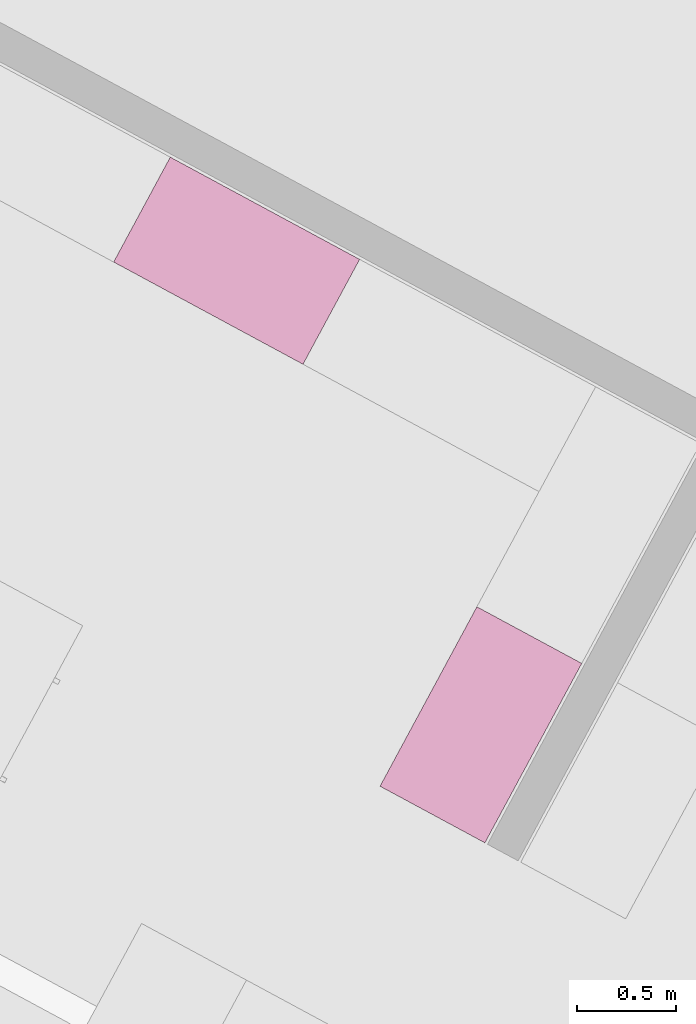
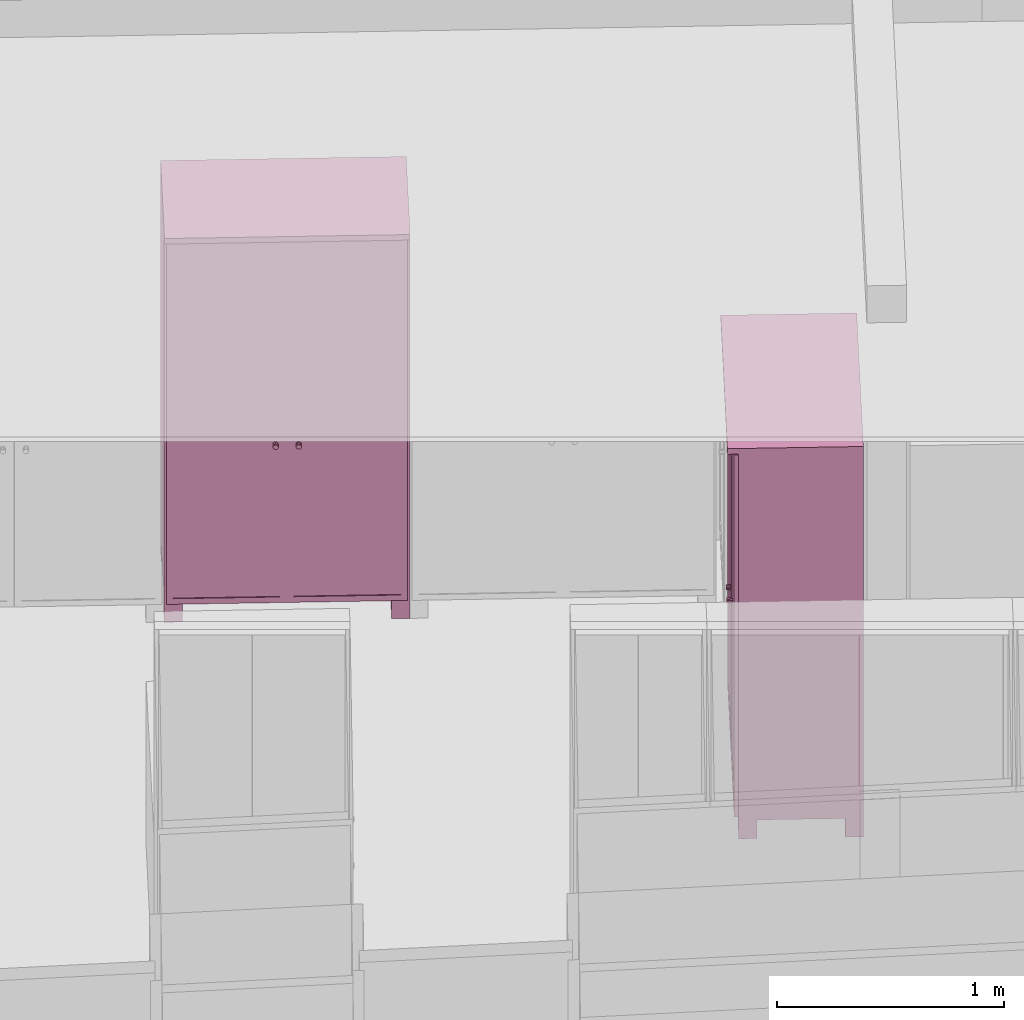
# One storey, part 31 of 48: 2 furnishings.
"""IFC2X3 building model written with IfcOpenShell, lengths in metres."""

from ifc_helpers import new_model, entity, si_unit, converted_unit, derived_unit, money_unit, direction, frame, origin_with_axes, place, context, subcontext, project, spatial, faceted_brep, type_object, element, save


model = new_model("IFC2X3")

# Units and contexts
model_context = context("Model", 3, precision=1e-05, world=origin_with_axes(), true_north=direction((0.0, 1.0)))
body_context = subcontext(model_context, "Body", "Model", "MODEL_VIEW")
ifc_project = project(units=[si_unit("LENGTHUNIT", "METRE"), si_unit("AREAUNIT", "SQUARE_METRE"), si_unit("VOLUMEUNIT", "CUBIC_METRE"), converted_unit("PLANEANGLEUNIT", "DEGREE", entity("IfcPlaneAngleMeasure", 0.0174532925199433), si_unit("PLANEANGLEUNIT", "RADIAN"), dimensions=[0, 0, 0, 0, 0, 0, 0]), money_unit("EUR"), converted_unit("TIMEUNIT", "Year", entity("IfcTimeMeasure", 31556926.0), si_unit("TIMEUNIT", "SECOND"), dimensions=[0, 0, 1, 0, 0, 0, 0]), si_unit("MASSUNIT", "GRAM", prefix="KILO"), si_unit("THERMODYNAMICTEMPERATUREUNIT", "DEGREE_CELSIUS"), si_unit("LUMINOUSINTENSITYUNIT", "LUMEN"), si_unit("ENERGYUNIT", "JOULE", prefix="MEGA"), derived_unit("THERMALCONDUCTANCEUNIT", [(si_unit("POWERUNIT", "WATT"), 1), (si_unit("LENGTHUNIT", "METRE"), -1), (si_unit("THERMODYNAMICTEMPERATUREUNIT", "KELVIN"), -1)]), derived_unit("SPECIFICHEATCAPACITYUNIT", [(si_unit("ENERGYUNIT", "JOULE"), 1), (si_unit("MASSUNIT", "GRAM", prefix="KILO"), -1), (si_unit("THERMODYNAMICTEMPERATUREUNIT", "KELVIN"), -1)]), derived_unit("MASSDENSITYUNIT", [(si_unit("MASSUNIT", "GRAM", prefix="KILO"), 1), (si_unit("VOLUMEUNIT", "CUBIC_METRE"), -1)])], contexts=[model_context])

# Site, building, storey
site_placement = place(None, frame((-3.949935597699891, 1.740105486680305, 0.0), z_axis=(0.0, 0.0, 1.0), x_axis=(0.8799804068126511, -0.475009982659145, 0.0)))
site = spatial("IfcSite", under=ifc_project, at=site_placement, Name="Gelände", CompositionType="ELEMENT")
building_placement = place(site_placement, origin_with_axes())
building = spatial("IfcBuilding", under=site, at=building_placement, Name="Gebäude", CompositionType="ELEMENT")
storey_placement = place(building_placement, frame((0.0, 0.0, 4.55), z_axis=(0.0, 0.0, 1.0), x_axis=(1.0, 0.0, 0.0)))
storey = spatial("IfcBuildingStorey", under=building, at=storey_placement, Name="Staffelgeschoss", CompositionType="ELEMENT", Elevation=4.55)

# Furnishings
furnishing_element_type = type_object("IfcFurnishingElementType", Name="Kleiderschrank 22")
furnishing_1_placement = place(storey_placement, frame((15.97849488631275, 4.444526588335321, 0.0), z_axis=(0.0, 0.0, 1.0), x_axis=(0.0, -1.0, 0.0)))
element("IfcFurnishingElement", 1, at=furnishing_1_placement, inside=storey, type_object=furnishing_element_type, Name="Objekt-0066", context=body_context, shape_type="Brep", body=[
    faceted_brep([(0.02000000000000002, 0.6000000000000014, 0.12), (0.02000000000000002, 0.5800000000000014, 0.12), (0.02000000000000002, 0.5800000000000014, 2.05), (0.02000000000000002, 0.6000000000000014, 2.05), (1.006465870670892, 0.6000000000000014, 0.12), (1.006465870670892, 0.5800000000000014, 0.12), (1.006465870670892, 0.5800000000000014, 2.05), (1.006465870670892, 0.6000000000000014, 2.05)], [[[0, 1, 2, 3]], [[0, 4, 5, 1]], [[1, 5, 6, 2]], [[3, 2, 6, 7]], [[4, 0, 3, 7]], [[5, 4, 7, 6]]]),
    faceted_brep([(1.026465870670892, 0.05000000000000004, 0.1), (1.006465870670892, 0.05000000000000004, 0.1), (1.006465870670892, 0.6000000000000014, 0.1), (1.026465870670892, 0.6000000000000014, 0.1), (1.026465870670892, 0.05000000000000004, 2.07), (1.006465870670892, 0.05000000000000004, 2.07), (1.006465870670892, 0.6000000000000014, 2.07), (1.026465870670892, 0.6000000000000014, 2.07)], [[[0, 1, 2, 3]], [[1, 0, 4, 5]], [[2, 1, 5, 6]], [[3, 2, 6, 7]], [[0, 3, 7, 4]], [[5, 4, 7, 6]]]),
    faceted_brep([(0.02, 0.05000000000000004, 0.1), (0.0, 0.05000000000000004, 0.1), (0.0, 0.6000000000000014, 0.1), (0.02, 0.6000000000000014, 0.1), (0.02, 0.05000000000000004, 2.07), (0.0, 0.05000000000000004, 2.07), (0.0, 0.6000000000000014, 2.07), (0.02, 0.6000000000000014, 2.07)], [[[0, 1, 2, 3]], [[1, 0, 4, 5]], [[2, 1, 5, 6]], [[3, 2, 6, 7]], [[0, 3, 7, 4]], [[5, 4, 7, 6]]]),
    faceted_brep([(1.006465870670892, 0.05000000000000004, 0.1), (0.02000000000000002, 0.05000000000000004, 0.1), (0.02000000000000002, 0.6000000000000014, 0.1), (1.006465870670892, 0.6000000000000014, 0.1), (1.006465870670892, 0.05000000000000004, 0.12), (0.02000000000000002, 0.05000000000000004, 0.12), (0.02000000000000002, 0.6000000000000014, 0.12), (1.006465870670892, 0.6000000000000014, 0.12)], [[[0, 1, 2, 3]], [[1, 0, 4, 5]], [[2, 1, 5, 6]], [[3, 2, 6, 7]], [[0, 3, 7, 4]], [[5, 4, 7, 6]]]),
    faceted_brep([(1.006465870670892, 0.05000000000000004, 2.05), (0.02000000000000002, 0.05000000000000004, 2.05), (0.02000000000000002, 0.6000000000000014, 2.05), (1.006465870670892, 0.6000000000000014, 2.05), (1.006465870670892, 0.05000000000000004, 2.07), (0.02000000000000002, 0.05000000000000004, 2.07), (0.02000000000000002, 0.6000000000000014, 2.07), (1.006465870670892, 0.6000000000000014, 2.07)], [[[0, 1, 2, 3]], [[1, 0, 4, 5]], [[2, 1, 5, 6]], [[3, 2, 6, 7]], [[0, 3, 7, 4]], [[5, 4, 7, 6]]]),
    faceted_brep([(1.026465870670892, 0.6000000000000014, 2.07), (1.026465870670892, 0.6000000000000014, 2.1), (1.026465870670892, 0.0, 2.1), (1.026465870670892, 0.0, 2.07), (0.0, 0.6000000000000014, 2.07), (0.0, 0.6000000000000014, 2.1), (0.0, 0.0, 2.1), (0.0, 0.0, 2.07)], [[[0, 1, 2, 3]], [[4, 5, 1, 0]], [[1, 5, 6, 2]], [[3, 2, 6, 7]], [[0, 3, 7, 4]], [[7, 6, 5, 4]]]),
    faceted_brep([(0.07999999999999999, 0.5200000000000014, 0.0), (0.07999999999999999, 0.6000000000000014, 0.0), (0.07999999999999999, 0.6000000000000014, 0.1), (0.07999999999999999, 0.5200000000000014, 0.1), (0.0, 0.5200000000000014, 0.0), (0.0, 0.6000000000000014, 0.0), (0.0, 0.6000000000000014, 0.1), (0.0, 0.5200000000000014, 0.1)], [[[0, 1, 2, 3]], [[0, 4, 5, 1]], [[1, 5, 6, 2]], [[3, 2, 6, 7]], [[4, 0, 3, 7]], [[5, 4, 7, 6]]]),
    faceted_brep([(1.026465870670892, 0.5200000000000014, 0.0), (1.026465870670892, 0.6000000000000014, 0.0), (1.026465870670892, 0.6000000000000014, 0.1), (1.026465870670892, 0.5200000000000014, 0.1), (0.9464658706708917, 0.5200000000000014, 0.0), (0.9464658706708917, 0.6000000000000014, 0.0), (0.9464658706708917, 0.6000000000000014, 0.1), (0.9464658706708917, 0.5200000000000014, 0.1)], [[[0, 1, 2, 3]], [[0, 4, 5, 1]], [[1, 5, 6, 2]], [[3, 2, 6, 7]], [[4, 0, 3, 7]], [[5, 4, 7, 6]]]),
    faceted_brep([(0.07999999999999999, 0.05000000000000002, 0.0), (0.07999999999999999, 0.13, 0.0), (0.07999999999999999, 0.13, 0.1), (0.07999999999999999, 0.05000000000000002, 0.1), (0.0, 0.05000000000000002, 0.0), (0.0, 0.13, 0.0), (0.0, 0.13, 0.1), (0.0, 0.05000000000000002, 0.1)], [[[0, 1, 2, 3]], [[0, 4, 5, 1]], [[1, 5, 6, 2]], [[3, 2, 6, 7]], [[4, 0, 3, 7]], [[5, 4, 7, 6]]]),
    faceted_brep([(1.026465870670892, 0.05000000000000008, 0.0), (1.026465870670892, 0.1300000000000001, 0.0), (1.026465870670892, 0.1300000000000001, 0.1), (1.026465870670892, 0.05000000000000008, 0.1), (0.9464658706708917, 0.05000000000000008, 0.0), (0.9464658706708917, 0.1300000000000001, 0.0), (0.9464658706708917, 0.1300000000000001, 0.1), (0.9464658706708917, 0.05000000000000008, 0.1)], [[[0, 1, 2, 3]], [[0, 4, 5, 1]], [[1, 5, 6, 2]], [[3, 2, 6, 7]], [[4, 0, 3, 7]], [[5, 4, 7, 6]]]),
    faceted_brep([(0.512732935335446, 0.05, 0.1104999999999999), (0.512732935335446, 0.05000000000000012, 2.0595), (0.512732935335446, 0.03000000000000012, 2.0595), (0.512732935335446, 0.03, 0.1104999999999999), (0.4827329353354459, 0.05, 0.1405), (0.4827329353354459, 0.05000000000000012, 2.0295), (0.4827329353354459, 0.03000000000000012, 2.0295), (0.4827329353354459, 0.03000000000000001, 0.1405)], [[[0, 1, 2, 3]], [[0, 4, 5, 1]], [[1, 5, 6, 2]], [[3, 2, 6, 7]], [[4, 0, 3, 7]], [[5, 4, 7, 6]]]),
    faceted_brep([(0.04050000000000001, 0.05, 0.1405), (0.04050000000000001, 0.05000000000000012, 2.0295), (0.04050000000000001, 0.03000000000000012, 2.0295), (0.04050000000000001, 0.03000000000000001, 0.1405), (0.01050000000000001, 0.05, 0.1104999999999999), (0.01050000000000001, 0.05000000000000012, 2.0595), (0.01050000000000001, 0.03000000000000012, 2.0595), (0.01050000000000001, 0.03, 0.1104999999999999)], [[[0, 1, 2, 3]], [[0, 4, 5, 1]], [[1, 5, 6, 2]], [[3, 2, 6, 7]], [[4, 0, 3, 7]], [[5, 4, 7, 6]]]),
    faceted_brep([(0.01050000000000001, 0.05, 0.1104999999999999), (0.512732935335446, 0.05, 0.1104999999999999), (0.512732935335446, 0.03, 0.1104999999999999), (0.01050000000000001, 0.03, 0.1104999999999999), (0.04050000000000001, 0.05, 0.1405), (0.4827329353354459, 0.05, 0.1405), (0.4827329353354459, 0.03000000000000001, 0.1405), (0.04050000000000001, 0.03000000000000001, 0.1405)], [[[0, 1, 2, 3]], [[0, 4, 5, 1]], [[1, 5, 6, 2]], [[3, 2, 6, 7]], [[4, 0, 3, 7]], [[5, 4, 7, 6]]]),
    faceted_brep([(0.04050000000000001, 0.05000000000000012, 2.0295), (0.4827329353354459, 0.05000000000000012, 2.0295), (0.4827329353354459, 0.03000000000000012, 2.0295), (0.04050000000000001, 0.03000000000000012, 2.0295), (0.01050000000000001, 0.05000000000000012, 2.0595), (0.512732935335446, 0.05000000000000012, 2.0595), (0.512732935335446, 0.03000000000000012, 2.0595), (0.01050000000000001, 0.03000000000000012, 2.0595)], [[[0, 1, 2, 3]], [[0, 4, 5, 1]], [[1, 5, 6, 2]], [[3, 2, 6, 7]], [[4, 0, 3, 7]], [[5, 4, 7, 6]]]),
    faceted_brep([(0.4827329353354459, 0.04500000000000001, 0.1405), (0.4827329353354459, 0.04500000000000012, 2.0295), (0.4827329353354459, 0.03500000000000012, 2.0295), (0.4827329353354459, 0.035, 0.1405), (0.04050000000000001, 0.04500000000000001, 0.1405), (0.04050000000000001, 0.04500000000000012, 2.0295), (0.04050000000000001, 0.03500000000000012, 2.0295), (0.04050000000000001, 0.035, 0.1405)], [[[0, 1, 2, 3]], [[0, 4, 5, 1]], [[1, 5, 6, 2]], [[3, 2, 6, 7]], [[4, 0, 3, 7]], [[5, 4, 7, 6]]]),
    faceted_brep([(0.4726252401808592, 0.035, 0.954), (0.4682329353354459, 0.035, 0.9496076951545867), (0.4622329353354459, 0.035, 0.948), (0.4562329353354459, 0.035, 0.9496076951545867), (0.4518406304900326, 0.035, 0.954), (0.4502329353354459, 0.035, 0.96), (0.4518406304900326, 0.035, 0.966), (0.4562329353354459, 0.035, 0.9703923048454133), (0.4622329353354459, 0.035, 0.972), (0.4682329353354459, 0.035, 0.9703923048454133), (0.4726252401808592, 0.035, 0.966), (0.4742329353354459, 0.035, 0.96), (0.4726252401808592, 0.01, 0.954), (0.4682329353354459, 0.01, 0.9496076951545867), (0.4622329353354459, 0.01, 0.948), (0.4562329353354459, 0.01, 0.9496076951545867), (0.4518406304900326, 0.01, 0.954), (0.4502329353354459, 0.01, 0.96), (0.4518406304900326, 0.01, 0.966), (0.4562329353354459, 0.01, 0.9703923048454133), (0.4622329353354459, 0.01, 0.972), (0.4682329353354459, 0.01, 0.9703923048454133), (0.4726252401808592, 0.01, 0.966), (0.4742329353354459, 0.01, 0.96)], [[[0, 1, 2, 3, 4, 5, 6, 7, 8, 9, 10, 11]], [[1, 0, 12, 13]], [[2, 1, 13, 14]], [[3, 2, 14, 15]], [[4, 3, 15, 16]], [[5, 4, 16, 17]], [[6, 5, 17, 18]], [[7, 6, 18, 19]], [[8, 7, 19, 20]], [[9, 8, 20, 21]], [[10, 9, 21, 22]], [[11, 10, 22, 23]], [[0, 11, 23, 12]], [[12, 23, 22, 21, 20, 19, 18, 17, 16, 15, 14, 13]]]),
    faceted_brep([(1.016965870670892, 0.05, 0.1104999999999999), (1.016965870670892, 0.05000000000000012, 2.0595), (1.016965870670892, 0.03000000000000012, 2.0595), (1.016965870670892, 0.03, 0.1104999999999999), (0.9869658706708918, 0.05, 0.1405), (0.9869658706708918, 0.05000000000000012, 2.0295), (0.9869658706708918, 0.03000000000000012, 2.0295), (0.9869658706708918, 0.03000000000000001, 0.1405)], [[[0, 1, 2, 3]], [[0, 4, 5, 1]], [[1, 5, 6, 2]], [[3, 2, 6, 7]], [[4, 0, 3, 7]], [[5, 4, 7, 6]]]),
    faceted_brep([(0.5447329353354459, 0.05, 0.1405), (0.5447329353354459, 0.05000000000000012, 2.0295), (0.5447329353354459, 0.03000000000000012, 2.0295), (0.5447329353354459, 0.03000000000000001, 0.1405), (0.514732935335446, 0.05, 0.1104999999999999), (0.514732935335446, 0.05000000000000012, 2.0595), (0.514732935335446, 0.03000000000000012, 2.0595), (0.514732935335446, 0.03, 0.1104999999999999)], [[[0, 1, 2, 3]], [[0, 4, 5, 1]], [[1, 5, 6, 2]], [[3, 2, 6, 7]], [[4, 0, 3, 7]], [[5, 4, 7, 6]]]),
    faceted_brep([(0.514732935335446, 0.05, 0.1104999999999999), (1.016965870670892, 0.05, 0.1104999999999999), (1.016965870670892, 0.03, 0.1104999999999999), (0.514732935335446, 0.03, 0.1104999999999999), (0.5447329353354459, 0.05, 0.1405), (0.9869658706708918, 0.05, 0.1405), (0.9869658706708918, 0.03000000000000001, 0.1405), (0.5447329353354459, 0.03000000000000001, 0.1405)], [[[0, 1, 2, 3]], [[0, 4, 5, 1]], [[1, 5, 6, 2]], [[3, 2, 6, 7]], [[4, 0, 3, 7]], [[5, 4, 7, 6]]]),
    faceted_brep([(0.5447329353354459, 0.05000000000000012, 2.0295), (0.9869658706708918, 0.05000000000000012, 2.0295), (0.9869658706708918, 0.03000000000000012, 2.0295), (0.5447329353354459, 0.03000000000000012, 2.0295), (0.514732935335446, 0.05000000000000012, 2.0595), (1.016965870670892, 0.05000000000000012, 2.0595), (1.016965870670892, 0.03000000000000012, 2.0595), (0.514732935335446, 0.03000000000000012, 2.0595)], [[[0, 1, 2, 3]], [[0, 4, 5, 1]], [[1, 5, 6, 2]], [[3, 2, 6, 7]], [[4, 0, 3, 7]], [[5, 4, 7, 6]]]),
    faceted_brep([(0.9869658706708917, 0.04500000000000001, 0.1405), (0.9869658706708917, 0.04500000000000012, 2.0295), (0.9869658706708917, 0.04000000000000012, 2.0295), (0.9869658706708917, 0.04000000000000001, 0.1405), (0.5447329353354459, 0.04500000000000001, 0.1405), (0.5447329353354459, 0.04500000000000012, 2.0295), (0.5447329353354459, 0.04000000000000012, 2.0295), (0.5447329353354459, 0.04000000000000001, 0.1405)], [[[0, 1, 2, 3]], [[0, 4, 5, 1]], [[1, 5, 6, 2]], [[3, 2, 6, 7]], [[4, 0, 3, 7]], [[5, 4, 7, 6]]]),
    faceted_brep([(0.9869658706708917, 0.04000000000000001, 0.1405), (0.9869658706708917, 0.04000000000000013, 2.0295), (0.9869658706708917, 0.03500000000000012, 2.0295), (0.9869658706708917, 0.03500000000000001, 0.1405), (0.5447329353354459, 0.04000000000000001, 0.1405), (0.5447329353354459, 0.04000000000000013, 2.0295), (0.5447329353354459, 0.03500000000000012, 2.0295), (0.5447329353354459, 0.03500000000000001, 0.1405)], [[[0, 1, 2, 3]], [[0, 4, 5, 1]], [[1, 5, 6, 2]], [[3, 2, 6, 7]], [[4, 0, 3, 7]], [[5, 4, 7, 6]]]),
    faceted_brep([(0.5538406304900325, 0.035, 0.954), (0.5522329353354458, 0.035, 0.96), (0.5538406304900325, 0.035, 0.966), (0.5582329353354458, 0.035, 0.9703923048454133), (0.5642329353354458, 0.035, 0.972), (0.5702329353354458, 0.035, 0.9703923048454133), (0.5746252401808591, 0.035, 0.966), (0.5762329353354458, 0.035, 0.96), (0.5746252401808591, 0.035, 0.954), (0.5702329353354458, 0.035, 0.9496076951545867), (0.5642329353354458, 0.035, 0.948), (0.5582329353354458, 0.035, 0.9496076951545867), (0.5538406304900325, 0.01, 0.954), (0.5522329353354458, 0.01, 0.96), (0.5538406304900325, 0.01, 0.966), (0.5582329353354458, 0.01, 0.9703923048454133), (0.5642329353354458, 0.01, 0.972), (0.5702329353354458, 0.01, 0.9703923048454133), (0.5746252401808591, 0.01, 0.966), (0.5762329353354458, 0.01, 0.96), (0.5746252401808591, 0.01, 0.954), (0.5702329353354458, 0.01, 0.9496076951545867), (0.5642329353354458, 0.01, 0.948), (0.5582329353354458, 0.01, 0.9496076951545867)], [[[0, 1, 2, 3, 4, 5, 6, 7, 8, 9, 10, 11]], [[0, 12, 13, 1]], [[1, 13, 14, 2]], [[2, 14, 15, 3]], [[3, 15, 16, 4]], [[4, 16, 17, 5]], [[5, 17, 18, 6]], [[6, 18, 19, 7]], [[7, 19, 20, 8]], [[8, 20, 21, 9]], [[9, 21, 22, 10]], [[10, 22, 23, 11]], [[11, 23, 12, 0]], [[12, 23, 22, 21, 20, 19, 18, 17, 16, 15, 14, 13]]]),
])
furnishing_2_placement = place(storey_placement, frame((14.62849488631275, 5.103060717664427, 0.0), z_axis=(0.0, 0.0, 1.0), x_axis=(1.0, 0.0, 0.0)))
element("IfcFurnishingElement", 2, at=furnishing_2_placement, inside=storey, type_object=furnishing_element_type, Name="Objekt-0066", context=body_context, shape_type="Brep", body=[
    faceted_brep([(-0.02000000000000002, 0.6000000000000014, 0.12), (-0.02000000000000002, 0.6000000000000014, 2.05), (-0.02000000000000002, 0.5800000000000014, 2.05), (-0.02000000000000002, 0.5800000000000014, 0.12), (-1.06329932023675, 0.6000000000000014, 0.12), (-1.06329932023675, 0.6000000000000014, 2.05), (-1.06329932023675, 0.5800000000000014, 2.05), (-1.06329932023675, 0.5800000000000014, 0.12)], [[[0, 1, 2, 3]], [[4, 5, 1, 0]], [[1, 5, 6, 2]], [[3, 2, 6, 7]], [[0, 3, 7, 4]], [[7, 6, 5, 4]]]),
    faceted_brep([(-1.08329932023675, 0.05000000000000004, 0.1), (-1.08329932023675, 0.6000000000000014, 0.1), (-1.06329932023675, 0.6000000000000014, 0.1), (-1.06329932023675, 0.05000000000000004, 0.1), (-1.08329932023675, 0.05000000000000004, 2.07), (-1.08329932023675, 0.6000000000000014, 2.07), (-1.06329932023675, 0.6000000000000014, 2.07), (-1.06329932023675, 0.05000000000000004, 2.07)], [[[0, 1, 2, 3]], [[0, 4, 5, 1]], [[1, 5, 6, 2]], [[2, 6, 7, 3]], [[3, 7, 4, 0]], [[7, 6, 5, 4]]]),
    faceted_brep([(-0.02, 0.05000000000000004, 0.1), (-0.02, 0.6000000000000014, 0.1), (0.0, 0.6000000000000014, 0.1), (0.0, 0.05000000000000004, 0.1), (-0.02, 0.05000000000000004, 2.07), (-0.02, 0.6000000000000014, 2.07), (0.0, 0.6000000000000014, 2.07), (0.0, 0.05000000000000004, 2.07)], [[[0, 1, 2, 3]], [[0, 4, 5, 1]], [[1, 5, 6, 2]], [[2, 6, 7, 3]], [[3, 7, 4, 0]], [[7, 6, 5, 4]]]),
    faceted_brep([(-1.06329932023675, 0.05000000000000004, 0.1), (-1.06329932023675, 0.6000000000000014, 0.1), (-0.02000000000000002, 0.6000000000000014, 0.1), (-0.02000000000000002, 0.05000000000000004, 0.1), (-1.06329932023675, 0.05000000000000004, 0.12), (-1.06329932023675, 0.6000000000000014, 0.12), (-0.02000000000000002, 0.6000000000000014, 0.12), (-0.02000000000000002, 0.05000000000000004, 0.12)], [[[0, 1, 2, 3]], [[0, 4, 5, 1]], [[1, 5, 6, 2]], [[2, 6, 7, 3]], [[3, 7, 4, 0]], [[7, 6, 5, 4]]]),
    faceted_brep([(-1.06329932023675, 0.05000000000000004, 2.05), (-1.06329932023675, 0.6000000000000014, 2.05), (-0.02000000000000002, 0.6000000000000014, 2.05), (-0.02000000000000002, 0.05000000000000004, 2.05), (-1.06329932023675, 0.05000000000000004, 2.07), (-1.06329932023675, 0.6000000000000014, 2.07), (-0.02000000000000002, 0.6000000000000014, 2.07), (-0.02000000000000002, 0.05000000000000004, 2.07)], [[[0, 1, 2, 3]], [[0, 4, 5, 1]], [[1, 5, 6, 2]], [[2, 6, 7, 3]], [[3, 7, 4, 0]], [[7, 6, 5, 4]]]),
    faceted_brep([(-1.08329932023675, 0.6000000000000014, 2.07), (-1.08329932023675, 0.0, 2.07), (-1.08329932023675, 0.0, 2.1), (-1.08329932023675, 0.6000000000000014, 2.1), (0.0, 0.6000000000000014, 2.07), (0.0, 0.0, 2.07), (0.0, 0.0, 2.1), (0.0, 0.6000000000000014, 2.1)], [[[0, 1, 2, 3]], [[0, 4, 5, 1]], [[1, 5, 6, 2]], [[3, 2, 6, 7]], [[4, 0, 3, 7]], [[5, 4, 7, 6]]]),
    faceted_brep([(-0.08000000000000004, 0.5200000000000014, 0.0), (-0.08000000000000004, 0.5200000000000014, 0.1), (-0.08000000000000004, 0.6000000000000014, 0.1), (-0.08000000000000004, 0.6000000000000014, 0.0), (0.0, 0.5200000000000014, 0.0), (0.0, 0.5200000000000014, 0.1), (0.0, 0.6000000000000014, 0.1), (0.0, 0.6000000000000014, 0.0)], [[[0, 1, 2, 3]], [[4, 5, 1, 0]], [[1, 5, 6, 2]], [[3, 2, 6, 7]], [[0, 3, 7, 4]], [[7, 6, 5, 4]]]),
    faceted_brep([(-1.08329932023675, 0.5200000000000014, 0.0), (-1.08329932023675, 0.5200000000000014, 0.1), (-1.08329932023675, 0.6000000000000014, 0.1), (-1.08329932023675, 0.6000000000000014, 0.0), (-1.00329932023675, 0.5200000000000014, 0.0), (-1.00329932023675, 0.5200000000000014, 0.1), (-1.00329932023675, 0.6000000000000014, 0.1), (-1.00329932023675, 0.6000000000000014, 0.0)], [[[0, 1, 2, 3]], [[4, 5, 1, 0]], [[1, 5, 6, 2]], [[3, 2, 6, 7]], [[0, 3, 7, 4]], [[7, 6, 5, 4]]]),
    faceted_brep([(-0.08000000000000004, 0.05000000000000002, 0.0), (-0.08000000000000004, 0.05000000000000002, 0.1), (-0.08000000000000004, 0.13, 0.1), (-0.08000000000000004, 0.13, 0.0), (0.0, 0.05000000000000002, 0.0), (0.0, 0.05000000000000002, 0.1), (0.0, 0.13, 0.1), (0.0, 0.13, 0.0)], [[[0, 1, 2, 3]], [[4, 5, 1, 0]], [[1, 5, 6, 2]], [[3, 2, 6, 7]], [[0, 3, 7, 4]], [[7, 6, 5, 4]]]),
    faceted_brep([(-1.08329932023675, 0.05000000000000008, 0.0), (-1.08329932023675, 0.05000000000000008, 0.1), (-1.08329932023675, 0.1300000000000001, 0.1), (-1.08329932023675, 0.1300000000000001, 0.0), (-1.00329932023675, 0.05000000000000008, 0.0), (-1.00329932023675, 0.05000000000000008, 0.1), (-1.00329932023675, 0.1300000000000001, 0.1), (-1.00329932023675, 0.1300000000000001, 0.0)], [[[0, 1, 2, 3]], [[4, 5, 1, 0]], [[1, 5, 6, 2]], [[3, 2, 6, 7]], [[0, 3, 7, 4]], [[7, 6, 5, 4]]]),
    faceted_brep([(-0.541149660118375, 0.05, 0.1104999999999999), (-0.541149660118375, 0.03, 0.1104999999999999), (-0.541149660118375, 0.03000000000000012, 2.0595), (-0.541149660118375, 0.05000000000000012, 2.0595), (-0.5111496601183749, 0.05, 0.1405), (-0.5111496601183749, 0.03000000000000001, 0.1405), (-0.5111496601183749, 0.03000000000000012, 2.0295), (-0.5111496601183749, 0.05000000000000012, 2.0295)], [[[0, 1, 2, 3]], [[4, 5, 1, 0]], [[1, 5, 6, 2]], [[3, 2, 6, 7]], [[0, 3, 7, 4]], [[7, 6, 5, 4]]]),
    faceted_brep([(-0.04050000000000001, 0.05, 0.1405), (-0.04050000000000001, 0.03000000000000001, 0.1405), (-0.04050000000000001, 0.03000000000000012, 2.0295), (-0.04050000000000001, 0.05000000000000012, 2.0295), (-0.01050000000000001, 0.05, 0.1104999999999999), (-0.01050000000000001, 0.03, 0.1104999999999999), (-0.01050000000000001, 0.03000000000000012, 2.0595), (-0.01050000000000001, 0.05000000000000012, 2.0595)], [[[0, 1, 2, 3]], [[4, 5, 1, 0]], [[1, 5, 6, 2]], [[3, 2, 6, 7]], [[0, 3, 7, 4]], [[7, 6, 5, 4]]]),
    faceted_brep([(-0.01050000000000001, 0.05, 0.1104999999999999), (-0.01050000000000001, 0.03, 0.1104999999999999), (-0.541149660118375, 0.03, 0.1104999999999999), (-0.541149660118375, 0.05, 0.1104999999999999), (-0.04050000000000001, 0.05, 0.1405), (-0.04050000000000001, 0.03000000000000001, 0.1405), (-0.5111496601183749, 0.03000000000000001, 0.1405), (-0.5111496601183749, 0.05, 0.1405)], [[[0, 1, 2, 3]], [[4, 5, 1, 0]], [[1, 5, 6, 2]], [[3, 2, 6, 7]], [[0, 3, 7, 4]], [[7, 6, 5, 4]]]),
    faceted_brep([(-0.04050000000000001, 0.05000000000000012, 2.0295), (-0.04050000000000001, 0.03000000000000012, 2.0295), (-0.5111496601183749, 0.03000000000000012, 2.0295), (-0.5111496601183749, 0.05000000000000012, 2.0295), (-0.01050000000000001, 0.05000000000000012, 2.0595), (-0.01050000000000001, 0.03000000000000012, 2.0595), (-0.541149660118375, 0.03000000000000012, 2.0595), (-0.541149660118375, 0.05000000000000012, 2.0595)], [[[0, 1, 2, 3]], [[4, 5, 1, 0]], [[1, 5, 6, 2]], [[3, 2, 6, 7]], [[0, 3, 7, 4]], [[7, 6, 5, 4]]]),
    faceted_brep([(-0.5111496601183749, 0.04500000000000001, 0.1405), (-0.5111496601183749, 0.035, 0.1405), (-0.5111496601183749, 0.03500000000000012, 2.0295), (-0.5111496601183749, 0.04500000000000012, 2.0295), (-0.04050000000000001, 0.04500000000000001, 0.1405), (-0.04050000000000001, 0.035, 0.1405), (-0.04050000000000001, 0.03500000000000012, 2.0295), (-0.04050000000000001, 0.04500000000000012, 2.0295)], [[[0, 1, 2, 3]], [[4, 5, 1, 0]], [[1, 5, 6, 2]], [[3, 2, 6, 7]], [[0, 3, 7, 4]], [[7, 6, 5, 4]]]),
    faceted_brep([(-0.5010419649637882, 0.035, 0.954), (-0.5026496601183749, 0.035, 0.96), (-0.5010419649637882, 0.035, 0.966), (-0.4966496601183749, 0.035, 0.9703923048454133), (-0.4906496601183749, 0.035, 0.972), (-0.4846496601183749, 0.035, 0.9703923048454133), (-0.4802573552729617, 0.035, 0.966), (-0.4786496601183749, 0.035, 0.96), (-0.4802573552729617, 0.035, 0.954), (-0.4846496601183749, 0.035, 0.9496076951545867), (-0.4906496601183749, 0.035, 0.948), (-0.4966496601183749, 0.035, 0.9496076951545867), (-0.5010419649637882, 0.01, 0.954), (-0.5026496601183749, 0.01, 0.96), (-0.5010419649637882, 0.01, 0.966), (-0.4966496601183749, 0.01, 0.9703923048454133), (-0.4906496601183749, 0.01, 0.972), (-0.4846496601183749, 0.01, 0.9703923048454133), (-0.4802573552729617, 0.01, 0.966), (-0.4786496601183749, 0.01, 0.96), (-0.4802573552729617, 0.01, 0.954), (-0.4846496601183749, 0.01, 0.9496076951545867), (-0.4906496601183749, 0.01, 0.948), (-0.4966496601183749, 0.01, 0.9496076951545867)], [[[0, 1, 2, 3, 4, 5, 6, 7, 8, 9, 10, 11]], [[0, 12, 13, 1]], [[1, 13, 14, 2]], [[2, 14, 15, 3]], [[3, 15, 16, 4]], [[4, 16, 17, 5]], [[5, 17, 18, 6]], [[6, 18, 19, 7]], [[7, 19, 20, 8]], [[8, 20, 21, 9]], [[9, 21, 22, 10]], [[10, 22, 23, 11]], [[11, 23, 12, 0]], [[12, 23, 22, 21, 20, 19, 18, 17, 16, 15, 14, 13]]]),
    faceted_brep([(-1.07379932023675, 0.05, 0.1104999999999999), (-1.07379932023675, 0.03, 0.1104999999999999), (-1.07379932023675, 0.03000000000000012, 2.0595), (-1.07379932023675, 0.05000000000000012, 2.0595), (-1.04379932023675, 0.05, 0.1405), (-1.04379932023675, 0.03000000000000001, 0.1405), (-1.04379932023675, 0.03000000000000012, 2.0295), (-1.04379932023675, 0.05000000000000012, 2.0295)], [[[0, 1, 2, 3]], [[4, 5, 1, 0]], [[1, 5, 6, 2]], [[3, 2, 6, 7]], [[0, 3, 7, 4]], [[7, 6, 5, 4]]]),
    faceted_brep([(-0.5731496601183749, 0.05, 0.1405), (-0.5731496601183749, 0.03000000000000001, 0.1405), (-0.5731496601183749, 0.03000000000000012, 2.0295), (-0.5731496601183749, 0.05000000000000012, 2.0295), (-0.543149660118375, 0.05, 0.1104999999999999), (-0.543149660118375, 0.03, 0.1104999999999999), (-0.543149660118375, 0.03000000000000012, 2.0595), (-0.543149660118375, 0.05000000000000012, 2.0595)], [[[0, 1, 2, 3]], [[4, 5, 1, 0]], [[1, 5, 6, 2]], [[3, 2, 6, 7]], [[0, 3, 7, 4]], [[7, 6, 5, 4]]]),
    faceted_brep([(-0.543149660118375, 0.05, 0.1104999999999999), (-0.543149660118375, 0.03, 0.1104999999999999), (-1.07379932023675, 0.03, 0.1104999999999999), (-1.07379932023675, 0.05, 0.1104999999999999), (-0.5731496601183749, 0.05, 0.1405), (-0.5731496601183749, 0.03000000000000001, 0.1405), (-1.04379932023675, 0.03000000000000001, 0.1405), (-1.04379932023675, 0.05, 0.1405)], [[[0, 1, 2, 3]], [[4, 5, 1, 0]], [[1, 5, 6, 2]], [[3, 2, 6, 7]], [[0, 3, 7, 4]], [[7, 6, 5, 4]]]),
    faceted_brep([(-0.5731496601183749, 0.05000000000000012, 2.0295), (-0.5731496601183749, 0.03000000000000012, 2.0295), (-1.04379932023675, 0.03000000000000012, 2.0295), (-1.04379932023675, 0.05000000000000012, 2.0295), (-0.543149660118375, 0.05000000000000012, 2.0595), (-0.543149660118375, 0.03000000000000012, 2.0595), (-1.07379932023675, 0.03000000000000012, 2.0595), (-1.07379932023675, 0.05000000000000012, 2.0595)], [[[0, 1, 2, 3]], [[4, 5, 1, 0]], [[1, 5, 6, 2]], [[3, 2, 6, 7]], [[0, 3, 7, 4]], [[7, 6, 5, 4]]]),
    faceted_brep([(-1.04379932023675, 0.04500000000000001, 0.1405), (-1.04379932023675, 0.04000000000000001, 0.1405), (-1.04379932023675, 0.04000000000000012, 2.0295), (-1.04379932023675, 0.04500000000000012, 2.0295), (-0.5731496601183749, 0.04500000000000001, 0.1405), (-0.5731496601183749, 0.04000000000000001, 0.1405), (-0.5731496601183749, 0.04000000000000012, 2.0295), (-0.5731496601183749, 0.04500000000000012, 2.0295)], [[[0, 1, 2, 3]], [[4, 5, 1, 0]], [[1, 5, 6, 2]], [[3, 2, 6, 7]], [[0, 3, 7, 4]], [[7, 6, 5, 4]]]),
    faceted_brep([(-1.04379932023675, 0.04000000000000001, 0.1405), (-1.04379932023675, 0.03500000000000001, 0.1405), (-1.04379932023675, 0.03500000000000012, 2.0295), (-1.04379932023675, 0.04000000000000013, 2.0295), (-0.5731496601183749, 0.04000000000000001, 0.1405), (-0.5731496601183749, 0.03500000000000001, 0.1405), (-0.5731496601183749, 0.03500000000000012, 2.0295), (-0.5731496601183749, 0.04000000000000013, 2.0295)], [[[0, 1, 2, 3]], [[4, 5, 1, 0]], [[1, 5, 6, 2]], [[3, 2, 6, 7]], [[0, 3, 7, 4]], [[7, 6, 5, 4]]]),
    faceted_brep([(-0.5822573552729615, 0.035, 0.954), (-0.5866496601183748, 0.035, 0.9496076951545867), (-0.5926496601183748, 0.035, 0.948), (-0.5986496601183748, 0.035, 0.9496076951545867), (-0.6030419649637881, 0.035, 0.954), (-0.6046496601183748, 0.035, 0.96), (-0.6030419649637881, 0.035, 0.966), (-0.5986496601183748, 0.035, 0.9703923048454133), (-0.5926496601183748, 0.035, 0.972), (-0.5866496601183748, 0.035, 0.9703923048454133), (-0.5822573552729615, 0.035, 0.966), (-0.5806496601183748, 0.035, 0.96), (-0.5822573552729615, 0.01, 0.954), (-0.5866496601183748, 0.01, 0.9496076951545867), (-0.5926496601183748, 0.01, 0.948), (-0.5986496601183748, 0.01, 0.9496076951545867), (-0.6030419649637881, 0.01, 0.954), (-0.6046496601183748, 0.01, 0.96), (-0.6030419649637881, 0.01, 0.966), (-0.5986496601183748, 0.01, 0.9703923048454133), (-0.5926496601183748, 0.01, 0.972), (-0.5866496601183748, 0.01, 0.9703923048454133), (-0.5822573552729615, 0.01, 0.966), (-0.5806496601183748, 0.01, 0.96)], [[[0, 1, 2, 3, 4, 5, 6, 7, 8, 9, 10, 11]], [[1, 0, 12, 13]], [[2, 1, 13, 14]], [[3, 2, 14, 15]], [[4, 3, 15, 16]], [[5, 4, 16, 17]], [[6, 5, 17, 18]], [[7, 6, 18, 19]], [[8, 7, 19, 20]], [[9, 8, 20, 21]], [[10, 9, 21, 22]], [[11, 10, 22, 23]], [[0, 11, 23, 12]], [[12, 23, 22, 21, 20, 19, 18, 17, 16, 15, 14, 13]]]),
])

save(model, "model.ifc")
